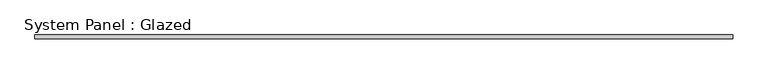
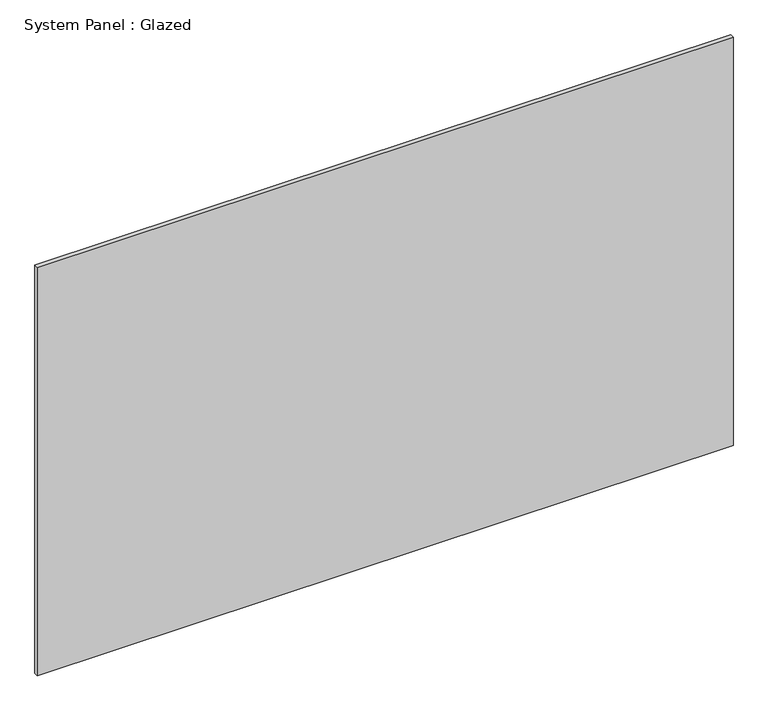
"""IFC4 building model written with IfcOpenShell, lengths in millimetres: plate geometry, System Panel : Glazed."""

from ifc_helpers import new_model, si_unit, origin, origin_with_axes, place, context, project, spatial, polyline, outline, extrude, source, transform, mapped, element, save


def system_panel_glazed_bbaa7a8e(model_context):
    return source(origin(), model_context, "Body", "SweptSolid", [
        extrude(outline(polyline([(2235.2, 19.05), (-2235.2, 19.05), (-2235.2, 44.45), (2235.2, 44.45), (2235.2, 19.05)])), origin_with_axes(), (0.0, 0.0, 1.0), 2774.95),
    ])


if __name__ == "__main__":
    model = new_model("IFC4")
    model_context = context("Model", 3, world=origin())
    ifc_project = project(units=[si_unit("LENGTHUNIT", "METRE", prefix="MILLI")], contexts=[model_context])
    site = spatial("IfcSite", under=ifc_project)
    building = spatial("IfcBuilding", under=site)
    placement = place(None, origin())
    system_panel_glazed_shape = system_panel_glazed_bbaa7a8e(model_context)
    element("IfcPlate", 1, ObjectType="System Panel : Glazed", at=placement, inside=building, context=model_context, shape_type="MappedRepresentation", body=[
        mapped(system_panel_glazed_shape, transform((0.0, 0.0, 0.0), x_axis=(1.0, 0.0, 0.0), y_axis=(0.0, 1.0, 0.0), z_axis=(0.0, 0.0, 1.0))),
    ])
    save(model, "model.ifc")
